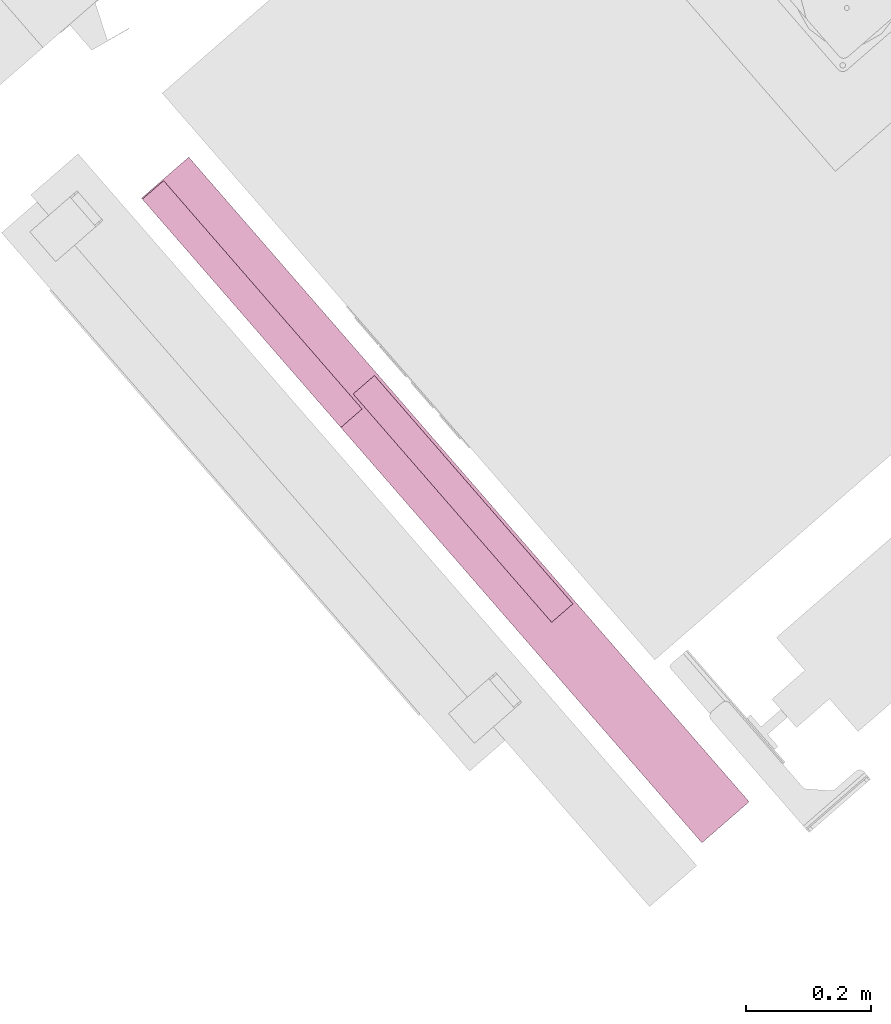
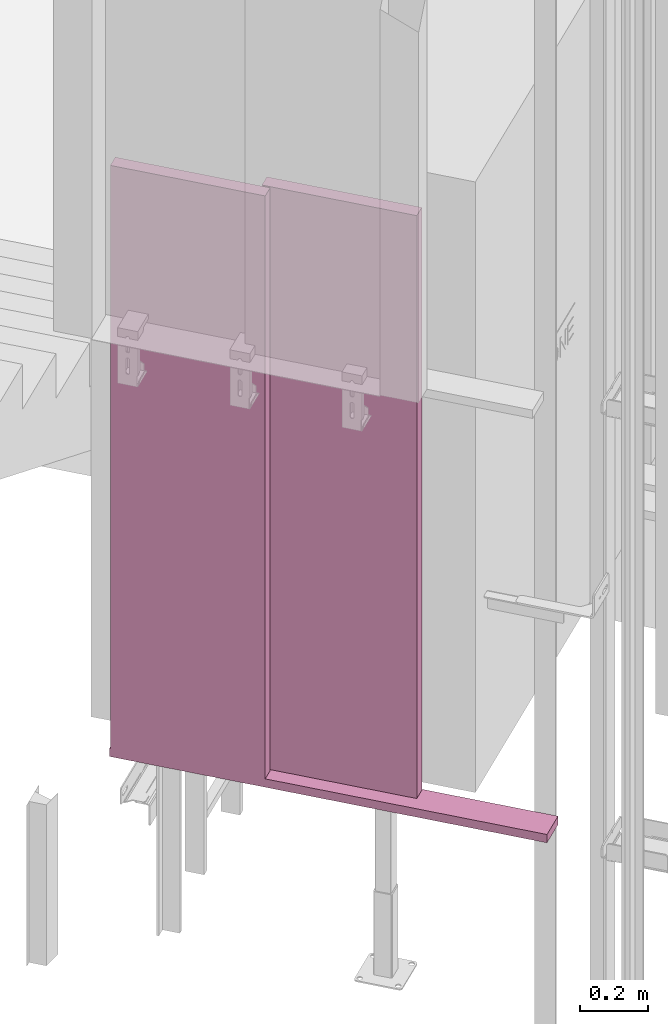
# One storey, part 120 of 124: 1 transport element.
"""IFC2X3 building model written with IfcOpenShell, lengths in millimetres."""

from ifc_helpers import new_model, entity, si_unit, converted_unit, derived_unit, money_unit, direction, frame, origin_with_axes, place, context, subcontext, project, spatial, faceted_brep, material, material_list, type_object, element, save


model = new_model("IFC2X3")

# Units and contexts
model_context = context("Model", 3, precision=1e-05, world=origin_with_axes(), true_north=direction((0.0, 1.0)))
body_context = subcontext(model_context, "Body", "Model", "MODEL_VIEW")
ifc_project = project(units=[si_unit("LENGTHUNIT", "METRE", prefix="MILLI"), si_unit("AREAUNIT", "SQUARE_METRE"), si_unit("VOLUMEUNIT", "CUBIC_METRE"), converted_unit("PLANEANGLEUNIT", "DEGREE", entity("IfcPlaneAngleMeasure", 0.0174532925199), si_unit("PLANEANGLEUNIT", "RADIAN"), dimensions=[0, 0, 0, 0, 0, 0, 0]), si_unit("SOLIDANGLEUNIT", "STERADIAN"), money_unit("EUR"), converted_unit("TIMEUNIT", "Year", entity("IfcTimeMeasure", 31556926.0), si_unit("TIMEUNIT", "SECOND"), dimensions=[0, 0, 1, 0, 0, 0, 0]), si_unit("MASSUNIT", "GRAM", prefix="KILO"), si_unit("THERMODYNAMICTEMPERATUREUNIT", "DEGREE_CELSIUS"), si_unit("LUMINOUSINTENSITYUNIT", "LUMEN"), si_unit("ENERGYUNIT", "JOULE", prefix="MEGA"), derived_unit("THERMALCONDUCTANCEUNIT", [(si_unit("POWERUNIT", "WATT"), 1), (si_unit("LENGTHUNIT", "METRE"), -1), (si_unit("THERMODYNAMICTEMPERATUREUNIT", "KELVIN"), -1)]), derived_unit("SPECIFICHEATCAPACITYUNIT", [(si_unit("ENERGYUNIT", "JOULE"), 1), (si_unit("MASSUNIT", "GRAM", prefix="KILO"), -1), (si_unit("THERMODYNAMICTEMPERATUREUNIT", "KELVIN"), -1)]), derived_unit("MASSDENSITYUNIT", [(si_unit("MASSUNIT", "GRAM", prefix="KILO"), 1), (si_unit("VOLUMEUNIT", "CUBIC_METRE"), -1)])], contexts=[model_context])

# Site, building, storey
site_placement = place(None, origin_with_axes())
site = spatial("IfcSite", under=ifc_project, at=site_placement, Name="Site", CompositionType="ELEMENT")
building_placement = place(site_placement, origin_with_axes())
building = spatial("IfcBuilding", under=site, at=building_placement, Name="Building", CompositionType="ELEMENT")
storey_placement = place(building_placement, frame((0.0, 0.0, -1615.0), z_axis=(0.0, 0.0, 1.0), x_axis=(1.0, 0.0, 0.0)))
storey = spatial("IfcBuildingStorey", under=building, at=storey_placement, Name="0  korrus", CompositionType="ELEMENT", Elevation=-1615.0)

# Transport element
ifc_material = material(Name="IFC Building Material")
ifc_material_list = material_list([ifc_material, ifc_material, ifc_material])
transport_element_type = type_object("IfcTransportElementType", Name="KONE_Car_Door_2R:KONE_Car_Door_2R", PredefinedType="NOTDEFINED")
transport_element_placement = place(storey_placement, frame((146352.037024, 77844.2102401, 0.0), z_axis=(0.0, 0.0, 1.0), x_axis=(0.656059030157, -0.754709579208, 0.0)))
element("IfcTransportElement", 1, at=transport_element_placement, inside=storey, type_object=transport_element_type, material=ifc_material_list, Name="KONE_Car_Door_2R:KONE_Car_Door_2R", ObjectType="KONE_Car_Door_2R", CapacityByNumber=0.0, CapacityByWeight=0.0, OperationType="ELEVATOR", context=body_context, shape_type="Brep", body=[
    faceted_brep([(20.5, -40.4438220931, 0.0), (-463.0, -40.4438220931, 0.0), (-463.0, -40.4438220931, 2100.0), (20.5, -40.4438220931, 2100.0), (20.5, -85.4438220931, 0.0), (-463.0, -85.4438220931, 0.0), (-463.0, -85.4438220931, 2100.0), (20.5, -85.4438220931, 2100.0)], [[[0, 1, 2, 3]], [[0, 4, 5, 1]], [[1, 5, 6, 2]], [[3, 2, 6, 7]], [[4, 0, 3, 7]], [[5, 4, 7, 6]]]),
    faceted_brep([(476.5, 9.55617790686, 0.0), (-7.0, 9.55617790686, 0.0), (-7.0, 9.55617790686, 2100.0), (476.5, 9.55617790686, 2100.0), (476.5, -35.4438220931, 0.0), (-7.0, -35.4438220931, 0.0), (-7.0, -35.4438220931, 2100.0), (476.5, -35.4438220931, 2100.0)], [[[0, 1, 2, 3]], [[0, 4, 5, 1]], [[1, 5, 6, 2]], [[3, 2, 6, 7]], [[4, 0, 3, 7]], [[5, 4, 7, 6]]]),
    faceted_brep([(-465.0, 14.5561779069, -30.0), (-465.0, -85.4438220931, -30.0), (-465.0, -85.4438220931, 0.0), (-465.0, 14.5561779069, 0.0), (900.0, 14.5561779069, -30.0), (900.0, -85.4438220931, -30.0), (900.0, -85.4438220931, 0.0), (900.0, 14.5561779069, 0.0)], [[[0, 1, 2, 3]], [[0, 4, 5, 1]], [[1, 5, 6, 2]], [[3, 2, 6, 7]], [[4, 0, 3, 7]], [[5, 4, 7, 6]]]),
])

save(model, "model.ifc")
